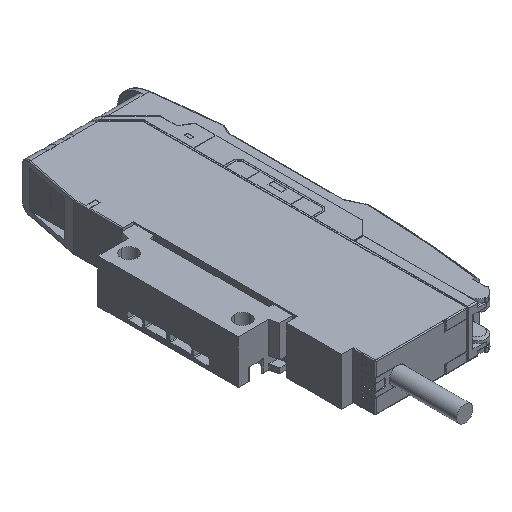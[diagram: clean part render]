
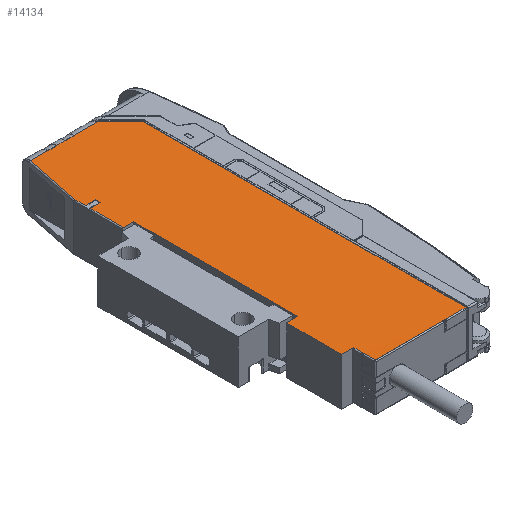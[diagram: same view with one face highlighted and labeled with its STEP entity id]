
A CAD part, isometric view. The second image highlights one B-rep face of the part: STEP entity #14134.
In plain terms, the highlighted planar face has unit normal (0, 0, 1).
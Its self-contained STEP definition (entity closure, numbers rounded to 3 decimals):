
#1316=DIRECTION('',(1.,0.,0.));
#1317=VECTOR('',#1316,5.449);
#1318=CARTESIAN_POINT('',(1.25,13.75,4.149));
#1319=LINE('',#1318,#1317);
#1324=DIRECTION('',(1.,0.,0.));
#1325=VECTOR('',#1324,2.);
#1326=CARTESIAN_POINT('',(-2.75,13.75,4.149));
#1327=LINE('',#1326,#1325);
#1347=DIRECTION('',(0.,-1.,0.));
#1348=VECTOR('',#1347,36.882);
#1349=CARTESIAN_POINT('',(-8.95,-9.868,4.149));
#1350=LINE('',#1349,#1348);
#1351=DIRECTION('',(1.,-0.009,0.));
#1352=VECTOR('',#1351,2.3);
#1353=CARTESIAN_POINT('',(-11.25,-9.848,4.149));
#1354=LINE('',#1353,#1352);
#1355=DIRECTION('',(0.,-1.,0.));
#1356=VECTOR('',#1355,1.);
#1357=CARTESIAN_POINT('',(-8.95,-1.25,4.149));
#1358=LINE('',#1357,#1356);
#1359=DIRECTION('',(1.,0.,0.));
#1360=VECTOR('',#1359,2.3);
#1361=CARTESIAN_POINT('',(-11.25,-1.25,4.149));
#1362=LINE('',#1361,#1360);
#1363=DIRECTION('',(0.,-1.,0.));
#1364=VECTOR('',#1363,2.392);
#1365=CARTESIAN_POINT('',(-11.25,1.142,4.149));
#1366=LINE('',#1365,#1364);
#1367=DIRECTION('',(-0.196,-0.981,0.));
#1368=VECTOR('',#1367,12.858);
#1369=CARTESIAN_POINT('',(-8.728,13.75,4.149));
#1370=LINE('',#1369,#1368);
#1371=DIRECTION('',(-1.,0.,0.));
#1372=VECTOR('',#1371,3.978);
#1373=CARTESIAN_POINT('',(-4.75,13.75,4.149));
#1374=LINE('',#1373,#1372);
#1375=DIRECTION('',(-1.,0.,0.));
#1376=VECTOR('',#1375,2.);
#1377=CARTESIAN_POINT('',(-2.75,13.75,4.149));
#1378=LINE('',#1377,#1376);
#1379=DIRECTION('',(-1.,0.,0.));
#1380=VECTOR('',#1379,2.);
#1381=CARTESIAN_POINT('',(1.25,13.75,4.149));
#1382=LINE('',#1381,#1380);
#1383=DIRECTION('',(-0.707,0.707,0.));
#1384=VECTOR('',#1383,7.06);
#1385=CARTESIAN_POINT('',(11.691,8.758,4.149));
#1386=LINE('',#1385,#1384);
#1387=CARTESIAN_POINT('',(11.55,8.617,4.149));
#1388=DIRECTION('',(0.,0.,1.));
#1389=DIRECTION('',(1.,0.,0.));
#1390=AXIS2_PLACEMENT_3D('',#1387,#1388,#1389);
#1392=DIRECTION('',(0.,1.,0.));
#1393=VECTOR('',#1392,72.567);
#1394=CARTESIAN_POINT('',(11.75,-63.95,4.149));
#1395=LINE('',#1394,#1393);
#1396=DIRECTION('',(1.,0.,0.));
#1397=VECTOR('',#1396,15.863);
#1398=CARTESIAN_POINT('',(-8.728,-63.95,4.149));
#1399=LINE('',#1398,#1397);
#1400=DIRECTION('',(0.,-1.,0.001));
#1401=VECTOR('',#1400,2.5);
#1402=CARTESIAN_POINT('',(-8.728,-61.45,4.148));
#1403=LINE('',#1402,#1401);
#1404=DIRECTION('',(0.,-1.,-0.006));
#1405=VECTOR('',#1404,0.3);
#1406=CARTESIAN_POINT('',(-8.728,-61.15,4.149));
#1407=LINE('',#1406,#1405);
#1408=DIRECTION('',(1.,-0.009,0.));
#1409=VECTOR('',#1408,2.723);
#1410=CARTESIAN_POINT('',(-11.45,-59.128,4.149));
#1411=LINE('',#1410,#1409);
#1412=DIRECTION('',(-1.,-0.009,0.));
#1413=VECTOR('',#1412,2.5);
#1414=CARTESIAN_POINT('',(-8.95,-46.75,4.149));
#1415=LINE('',#1414,#1413);
#1438=CARTESIAN_POINT('',(-11.25,-9.848,4.149));
#2755=DIRECTION('',(0.,1.,0.));
#2756=VECTOR('',#2755,7.598);
#2757=CARTESIAN_POINT('',(-11.25,-9.848,4.149));
#2758=LINE('',#2757,#2756);
#2784=DIRECTION('',(1.,0.,0.));
#2785=VECTOR('',#2784,2.3);
#2786=CARTESIAN_POINT('',(-11.25,-2.25,4.149));
#2787=LINE('',#2786,#2785);
#7958=DIRECTION('',(-1.,0.,0.));
#7959=VECTOR('',#7958,4.614);
#7960=CARTESIAN_POINT('',(11.75,-63.95,4.149));
#7961=LINE('',#7960,#7959);
#8610=DIRECTION('',(0.,1.,0.));
#8611=VECTOR('',#8610,12.356);
#8612=CARTESIAN_POINT('',(-11.45,-59.128,4.149));
#8613=LINE('',#8612,#8611);
#8618=DIRECTION('',(0.,1.,0.));
#8619=VECTOR('',#8618,1.998);
#8620=CARTESIAN_POINT('',(-8.728,-61.15,4.149));
#8621=LINE('',#8620,#8619);
#9429=VERTEX_POINT('',#1438);
#9430=CARTESIAN_POINT('',(-11.25,1.142,4.149));
#9431=CARTESIAN_POINT('',(-11.25,-1.25,4.149));
#9432=VERTEX_POINT('',#9430);
#9433=VERTEX_POINT('',#9431);
#9436=CARTESIAN_POINT('',(-11.25,-2.25,4.149));
#9437=VERTEX_POINT('',#9436);
#9438=CARTESIAN_POINT('',(11.75,8.617,4.149));
#9439=CARTESIAN_POINT('',(11.691,8.758,4.149));
#9440=VERTEX_POINT('',#9438);
#9441=VERTEX_POINT('',#9439);
#9442=CARTESIAN_POINT('',(6.699,13.75,4.149));
#9443=VERTEX_POINT('',#9442);
#9444=CARTESIAN_POINT('',(-8.728,13.75,4.149));
#9445=VERTEX_POINT('',#9444);
#9446=CARTESIAN_POINT('',(-11.45,-59.128,4.149));
#9447=CARTESIAN_POINT('',(-11.45,-46.772,4.149));
#9448=VERTEX_POINT('',#9446);
#9449=VERTEX_POINT('',#9447);
#9450=CARTESIAN_POINT('',(-8.728,-59.152,
4.149));
#9451=VERTEX_POINT('',#9450);
#9452=CARTESIAN_POINT('',(11.75,-63.95,4.149));
#9453=VERTEX_POINT('',#9452);
#11182=CARTESIAN_POINT('',(1.25,13.75,4.149));
#11184=VERTEX_POINT('',#11182);
#11186=CARTESIAN_POINT('',(-0.75,13.75,4.149));
#11188=VERTEX_POINT('',#11186);
#11190=CARTESIAN_POINT('',(-2.75,13.75,4.149));
#11192=VERTEX_POINT('',#11190);
#11194=CARTESIAN_POINT('',(-4.75,13.75,4.149));
#11196=VERTEX_POINT('',#11194);
#11297=CARTESIAN_POINT('',(-8.95,-9.868,4.149));
#11298=VERTEX_POINT('',#11297);
#11299=CARTESIAN_POINT('',(-8.95,-1.25,4.149));
#11300=VERTEX_POINT('',#11299);
#11301=CARTESIAN_POINT('',(-8.95,-2.25,4.149));
#11302=VERTEX_POINT('',#11301);
#11327=CARTESIAN_POINT('',(-8.95,-46.75,4.149));
#11328=VERTEX_POINT('',#11327);
#11532=CARTESIAN_POINT('',(7.136,-63.95,4.149));
#11533=VERTEX_POINT('',#11532);
#11544=CARTESIAN_POINT('',(-8.728,-61.15,4.149));
#11545=VERTEX_POINT('',#11544);
#11577=CARTESIAN_POINT('',(-8.728,-61.45,4.148));
#11579=VERTEX_POINT('',#11577);
#11614=CARTESIAN_POINT('',(-8.728,-63.95,4.149));
#11615=VERTEX_POINT('',#11614);
#14088=CARTESIAN_POINT('',(-7.45,-52.15,4.149));
#14089=DIRECTION('',(0.,0.,1.));
#14090=DIRECTION('',(0.,-1.,0.));
#14091=AXIS2_PLACEMENT_3D('',#14088,#14089,#14090);
#14092=PLANE('',#14091);
#14093=ORIENTED_EDGE('',*,*,#13476,.F.);
#14095=ORIENTED_EDGE('',*,*,#14094,.F.);
#14097=ORIENTED_EDGE('',*,*,#14096,.T.);
#14099=ORIENTED_EDGE('',*,*,#14098,.T.);
#14100=ORIENTED_EDGE('',*,*,#13491,.F.);
#14102=ORIENTED_EDGE('',*,*,#14101,.F.);
#14104=ORIENTED_EDGE('',*,*,#14103,.F.);
#14106=ORIENTED_EDGE('',*,*,#14105,.F.);
#14107=ORIENTED_EDGE('',*,*,#14072,.F.);
#14108=ORIENTED_EDGE('',*,*,#13857,.F.);
#14109=ORIENTED_EDGE('',*,*,#14066,.T.);
#14110=ORIENTED_EDGE('',*,*,#13873,.F.);
#14111=ORIENTED_EDGE('',*,*,#14058,.T.);
#14113=ORIENTED_EDGE('',*,*,#14112,.F.);
#14115=ORIENTED_EDGE('',*,*,#14114,.F.);
#14116=ORIENTED_EDGE('',*,*,#13102,.F.);
#14118=ORIENTED_EDGE('',*,*,#14117,.T.);
#14119=ORIENTED_EDGE('',*,*,#13283,.F.);
#14121=ORIENTED_EDGE('',*,*,#14120,.F.);
#14123=ORIENTED_EDGE('',*,*,#14122,.F.);
#14125=ORIENTED_EDGE('',*,*,#14124,.T.);
#14127=ORIENTED_EDGE('',*,*,#14126,.F.);
#14129=ORIENTED_EDGE('',*,*,#14128,.T.);
#14131=ORIENTED_EDGE('',*,*,#14130,.F.);
#14132=EDGE_LOOP('',(#14093,#14095,#14097,#14099,#14100,#14102,#14104,#14106,
#14107,#14108,#14109,#14110,#14111,#14113,#14115,#14116,#14118,#14119,#14121,
#14123,#14125,#14127,#14129,#14131));
#14133=FACE_OUTER_BOUND('',#14132,.F.);
#1391=CIRCLE('',#1390,0.2);
#13102=EDGE_CURVE('',#9453,#9440,#1395,.T.);
#13283=EDGE_CURVE('',#11615,#11533,#1399,.T.);
#13476=EDGE_CURVE('',#11298,#11328,#1350,.T.);
#13491=EDGE_CURVE('',#11300,#11302,#1358,.T.);
#13857=EDGE_CURVE('',#11192,#11196,#1378,.T.);
#13873=EDGE_CURVE('',#11184,#11188,#1382,.T.);
#14058=EDGE_CURVE('',#11184,#9443,#1319,.T.);
#14066=EDGE_CURVE('',#11192,#11188,#1327,.T.);
#14072=EDGE_CURVE('',#11196,#9445,#1374,.T.);
#14094=EDGE_CURVE('',#9429,#11298,#1354,.T.);
#14096=EDGE_CURVE('',#9429,#9437,#2758,.T.);
#14098=EDGE_CURVE('',#9437,#11302,#2787,.T.);
#14101=EDGE_CURVE('',#9433,#11300,#1362,.T.);
#14103=EDGE_CURVE('',#9432,#9433,#1366,.T.);
#14105=EDGE_CURVE('',#9445,#9432,#1370,.T.);
#14112=EDGE_CURVE('',#9441,#9443,#1386,.T.);
#14114=EDGE_CURVE('',#9440,#9441,#1391,.T.);
#14117=EDGE_CURVE('',#9453,#11533,#7961,.T.);
#14120=EDGE_CURVE('',#11579,#11615,#1403,.T.);
#14122=EDGE_CURVE('',#11545,#11579,#1407,.T.);
#14124=EDGE_CURVE('',#11545,#9451,#8621,.T.);
#14126=EDGE_CURVE('',#9448,#9451,#1411,.T.);
#14128=EDGE_CURVE('',#9448,#9449,#8613,.T.);
#14130=EDGE_CURVE('',#11328,#9449,#1415,.T.);
#14134=ADVANCED_FACE('',(#14133),#14092,.T.);
